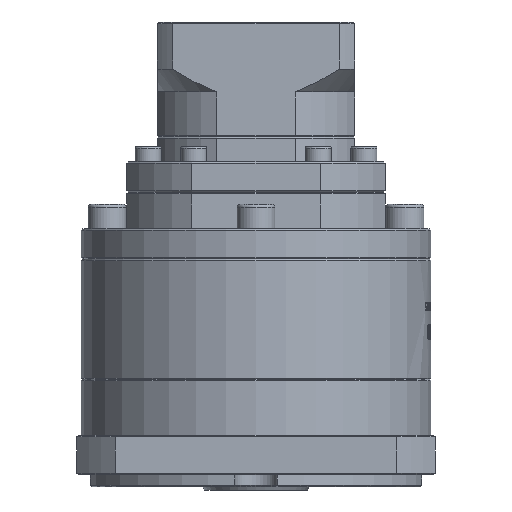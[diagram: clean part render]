
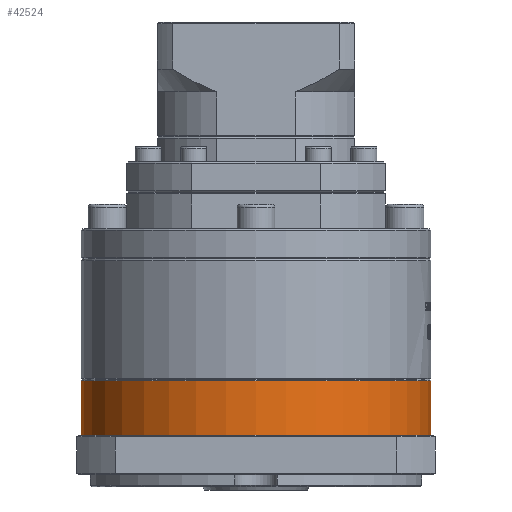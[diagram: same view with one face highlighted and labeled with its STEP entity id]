
A CAD part, front view. The second image highlights one B-rep face of the part: STEP entity #42524.
In plain terms, the highlighted cylindrical face has radius 57.5 mm (diameter 115 mm), a partial arc.
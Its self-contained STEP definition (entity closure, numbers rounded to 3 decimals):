
#2405 = VERTEX_POINT ( 'NONE', #59250 ) ;
#5434 = CARTESIAN_POINT ( 'NONE',  ( -60.328, 40.805, -92.8 ) ) ;
#11061 = CARTESIAN_POINT ( 'NONE',  ( -2.828, 40.805, -92.8 ) ) ;
#13046 = AXIS2_PLACEMENT_3D ( 'NONE', #74779, #23801, #83317 ) ;
#13971 = DIRECTION ( 'NONE',  ( -1., 0., 0. ) ) ;
#14356 = EDGE_LOOP ( 'NONE', ( #93534, #37614, #86239, #41728 ) ) ;
#14843 = LINE ( 'NONE', #41910, #57545 ) ;
#23801 = DIRECTION ( 'NONE',  ( 0., 0., 1. ) ) ;
#26640 = EDGE_CURVE ( 'NONE', #101134, #2405, #14843, .T. ) ;
#27002 = EDGE_CURVE ( 'NONE', #100915, #94228, #109453, .T. ) ;
#37029 = FACE_OUTER_BOUND ( 'NONE', #14356, .T. ) ;
#37110 = AXIS2_PLACEMENT_3D ( 'NONE', #5434, #65068, #13971 ) ;
#37614 = ORIENTED_EDGE ( 'NONE', *, *, #54654, .T. ) ;
#39183 = CARTESIAN_POINT ( 'NONE',  ( -2.828, 40.805, -110.8 ) ) ;
#41063 = AXIS2_PLACEMENT_3D ( 'NONE', #58648, #67230, #101560 ) ;
#41728 = ORIENTED_EDGE ( 'NONE', *, *, #68377, .F. ) ;
#41910 = CARTESIAN_POINT ( 'NONE',  ( -117.828, 40.805, -110.8 ) ) ;
#42524 = ADVANCED_FACE ( 'NONE', ( #37029 ), #71662, .T. ) ;
#54654 = EDGE_CURVE ( 'NONE', #101134, #100915, #90758, .T. ) ;
#57545 = VECTOR ( 'NONE', #67635, 1000. ) ;
#58648 = CARTESIAN_POINT ( 'NONE',  ( -60.328, 40.805, -110.8 ) ) ;
#59250 = CARTESIAN_POINT ( 'NONE',  ( -117.828, 40.805, -92.8 ) ) ;
#65068 = DIRECTION ( 'NONE',  ( 0., 0., 1. ) ) ;
#66050 = CARTESIAN_POINT ( 'NONE',  ( -2.828, 40.805, -110.8 ) ) ;
#67230 = DIRECTION ( 'NONE',  ( 0., 0., 1. ) ) ;
#67635 = DIRECTION ( 'NONE',  ( 0., 0., 1. ) ) ;
#68377 = EDGE_CURVE ( 'NONE', #2405, #94228, #88141, .T. ) ;
#71662 = CYLINDRICAL_SURFACE ( 'NONE', #41063, 57.5 ) ;
#74590 = DIRECTION ( 'NONE',  ( 0., 0., 1. ) ) ;
#74779 = CARTESIAN_POINT ( 'NONE',  ( -60.328, 40.805, -110.8 ) ) ;
#75257 = CARTESIAN_POINT ( 'NONE',  ( -117.828, 40.805, -110.8 ) ) ;
#83317 = DIRECTION ( 'NONE',  ( 1., 0., 0. ) ) ;
#86239 = ORIENTED_EDGE ( 'NONE', *, *, #27002, .T. ) ;
#88141 = CIRCLE ( 'NONE', #37110, 57.5 ) ;
#90758 = CIRCLE ( 'NONE', #13046, 57.5 ) ;
#93534 = ORIENTED_EDGE ( 'NONE', *, *, #26640, .F. ) ;
#94228 = VERTEX_POINT ( 'NONE', #11061 ) ;
#100915 = VERTEX_POINT ( 'NONE', #39183 ) ;
#101134 = VERTEX_POINT ( 'NONE', #75257 ) ;
#101560 = DIRECTION ( 'NONE',  ( 1., 0., 0. ) ) ;
#106765 = VECTOR ( 'NONE', #74590, 1000. ) ;
#109453 = LINE ( 'NONE', #66050, #106765 ) ;
